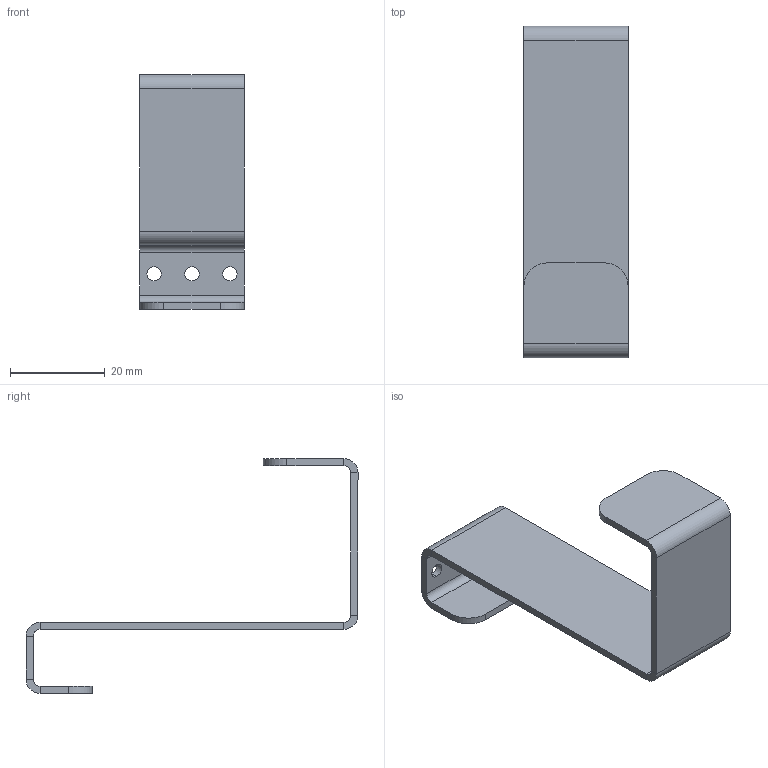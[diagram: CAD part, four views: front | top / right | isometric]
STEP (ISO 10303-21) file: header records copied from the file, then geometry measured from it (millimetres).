
FILE_DESCRIPTION (( 'STEP AP214' ), '1' );
FILE_NAME ('Wieszak na rêcznik GLOS RUGI.STEP', '2024-12-10T06:38:28', ( '' ), ( '' ), 'SwSTEP 2.0', 'SolidWorks 2021', '' );
FILE_SCHEMA (( 'AUTOMOTIVE_DESIGN' ));
Length unit declared in the file: millimetre
Products named in the file (1): Wieszak na rêcznik GLOS RUGI
Bounding box: 22 x 70 x 49.5 mm (x, y, z)
Volume: 4725.5 mm3; surface area: 6831.7 mm2
Topology: 1 solids, 1 shells, 48 faces, 106 edges, 60 vertices
Faces by surface type: plane 30, cylinder 18
Entity records: 1336 total; most frequent: DIRECTION 240, CARTESIAN_POINT 215, ORIENTED_EDGE 212, EDGE_CURVE 106, AXIS2_PLACEMENT_3D 85, VECTOR 70, LINE 70, VERTEX_POINT 60
